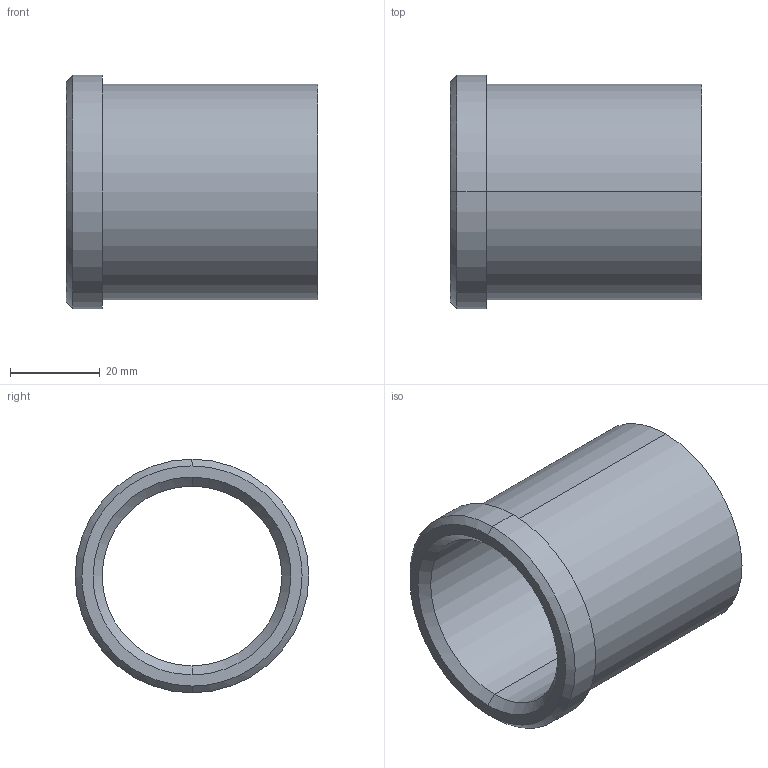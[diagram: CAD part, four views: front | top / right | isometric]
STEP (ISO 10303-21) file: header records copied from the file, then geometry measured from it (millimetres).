
FILE_DESCRIPTION(('CATIA V5 STEP Exchange'),'2;1');
FILE_NAME('C:\Users\Utente\Desktop\IO LAVORO\3D X SITO CF\X SITO\PLASTICA\353\353-40X56.stp','2021-05-13T18:26:10+00:00',('none'),('none'),'CATIA Version 5 Release 20 GA (IN-10)','CATIA V5 STEP AP203','none');
FILE_SCHEMA(('CONFIG_CONTROL_DESIGN'));
Length unit declared in the file: millimetre
Products named in the file (1): 353-40X56
Bounding box: 56 x 52 x 52 mm (x, y, z)
Volume: 32926.6 mm3; surface area: 16921.9 mm2
Topology: 1 solids, 1 shells, 15 faces, 48 edges, 36 vertices
Faces by surface type: cylinder 6, cone 4, plane 3, torus 2
Entity records: 680 total; most frequent: CARTESIAN_POINT 212, ORIENTED_EDGE 96, DIRECTION 70, EDGE_CURVE 48, AXIS2_PLACEMENT_3D 46, VERTEX_POINT 36, CIRCLE 30, EDGE_LOOP 18
